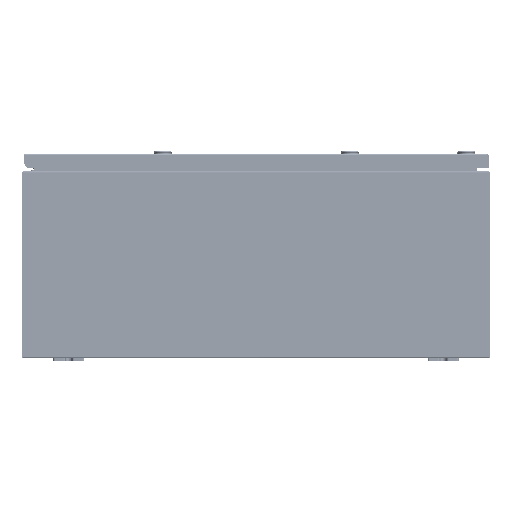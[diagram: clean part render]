
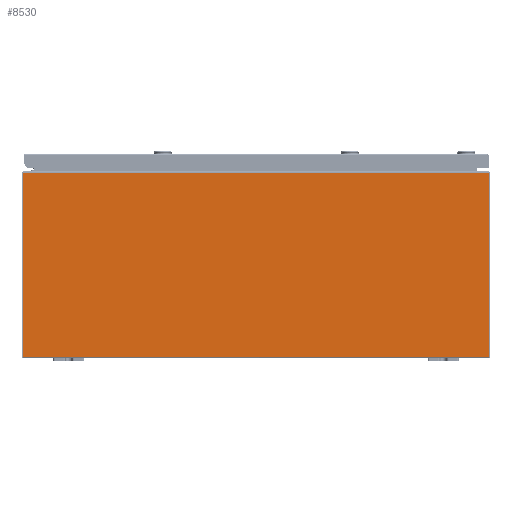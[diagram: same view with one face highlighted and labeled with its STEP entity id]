
A CAD part, front view. The second image highlights one B-rep face of the part: STEP entity #8530.
In plain terms, the highlighted planar face has unit normal (0, -1, 0).
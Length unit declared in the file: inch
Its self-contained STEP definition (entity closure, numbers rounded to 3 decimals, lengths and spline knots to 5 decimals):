
#2349=CARTESIAN_POINT('',(-14.91,-18.0,11.901));
#2350=VERTEX_POINT('',#2349);
#2358=CARTESIAN_POINT('',(14.91,-18.0,11.901));
#2359=VERTEX_POINT('',#2358);
#2360=CARTESIAN_POINT('',(14.91,-18.,11.901));
#2361=DIRECTION('',(-1.0,0.0,0.0));
#2362=VECTOR('',#2361,29.82);
#2363=LINE('',#2360,#2362);
#2364=EDGE_CURVE('',#2359,#2350,#2363,.T.);
#2397=CARTESIAN_POINT('',(-14.91,-18.,0.099));
#2398=VERTEX_POINT('',#2397);
#2407=CARTESIAN_POINT('',(-14.91,-18.0,0.099));
#2408=DIRECTION('',(0.0,0.0,1.0));
#2409=VECTOR('',#2408,11.802);
#2410=LINE('',#2407,#2409);
#2411=EDGE_CURVE('',#2398,#2350,#2410,.T.);
#7280=CARTESIAN_POINT('',(14.91,-18.,0.099));
#7281=VERTEX_POINT('',#7280);
#7282=CARTESIAN_POINT('',(14.91,-18.0,11.901));
#7283=DIRECTION('',(0.0,0.0,-1.0));
#7284=VECTOR('',#7283,11.802);
#7285=LINE('',#7282,#7284);
#7286=EDGE_CURVE('',#2359,#7281,#7285,.T.);
#8334=CARTESIAN_POINT('',(-14.91,-18.,0.099));
#8335=DIRECTION('',(1.0,0.0,0.0));
#8336=VECTOR('',#8335,29.82);
#8337=LINE('',#8334,#8336);
#8338=EDGE_CURVE('',#2398,#7281,#8337,.T.);
#8519=CARTESIAN_POINT('',(0.0,-18.,6.));
#8520=DIRECTION('',(0.0,1.0,0.0));
#8521=DIRECTION('',(0.0,0.0,1.0));
#8522=AXIS2_PLACEMENT_3D('',#8519,#8520,#8521);
#8523=PLANE('',#8522);
#8524=ORIENTED_EDGE('',*,*,#2364,.T.);
#8525=ORIENTED_EDGE('',*,*,#2411,.F.);
#8526=ORIENTED_EDGE('',*,*,#8338,.T.);
#8527=ORIENTED_EDGE('',*,*,#7286,.F.);
#8528=EDGE_LOOP('',(#8524,#8525,#8526,#8527));
#8529=FACE_OUTER_BOUND('',#8528,.T.);
#8530=ADVANCED_FACE('',(#8529),#8523,.F.);
